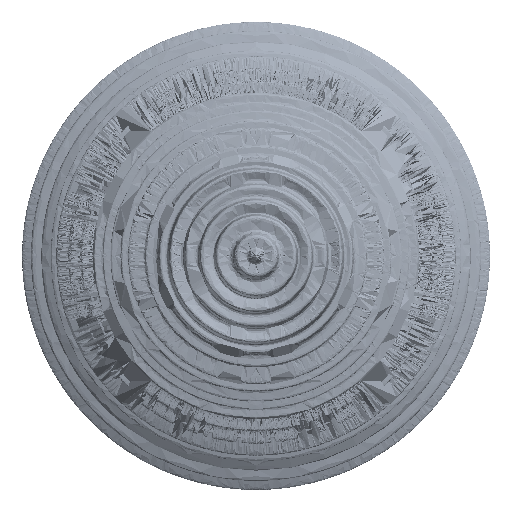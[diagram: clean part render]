
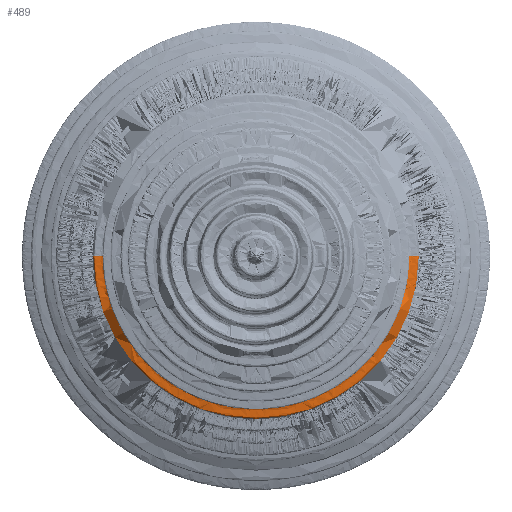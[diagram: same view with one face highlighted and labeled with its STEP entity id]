
A CAD part, front view. The second image highlights one B-rep face of the part: STEP entity #489.
In plain terms, the highlighted free-form (B-spline) face has degree [3, 3] with [8, 4] control points.
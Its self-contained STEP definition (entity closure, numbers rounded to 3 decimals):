
#489 = ADVANCED_FACE ( 'NONE', ( #21960 ), #7741, .F. ) ;
#1442 = CARTESIAN_POINT ( 'NONE',  ( -138.346, -235.173, 0. ) ) ;
#1948 = CARTESIAN_POINT ( 'NONE',  ( 136.688, -230.291, 0. ) ) ;
#2129 = CARTESIAN_POINT ( 'NONE',  ( 138.168, -233.419, 0. ) ) ;
#2303 = CARTESIAN_POINT ( 'NONE',  ( -141.234, -229.502, 0. ) ) ;
#2360 = VERTEX_POINT ( 'NONE', #14166 ) ;
#2468 = CARTESIAN_POINT ( 'NONE',  ( -136.601, -230.291, 0. ) ) ;
#2653 = CARTESIAN_POINT ( 'NONE',  ( 146.82, -228.363, -293.554 ) ) ;
#3432 = EDGE_CURVE ( 'NONE', #6575, #17214, #16341, .T. ) ;
#3960 = CARTESIAN_POINT ( 'NONE',  ( 136.688, -230.291, 0. ) ) ;
#4473 = EDGE_CURVE ( 'NONE', #2360, #30627, #20377, .T. ) ;
#4699 = CARTESIAN_POINT ( 'NONE',  ( -136.601, -230.291, 0. ) ) ;
#5205 = CARTESIAN_POINT ( 'NONE',  ( -136.601, -230.291, -273.29 ) ) ;
#5367 = CARTESIAN_POINT ( 'NONE',  ( -145.478, -229.823, 0. ) ) ;
#5595 = EDGE_LOOP ( 'NONE', ( #30101, #30723, #27416, #13498 ) ) ;
#5689 = CARTESIAN_POINT ( 'NONE',  ( -146.733, -228.363, 0. ) ) ;
#6421 = CARTESIAN_POINT ( 'NONE',  ( 0.044, -228.363, 0. ) ) ;
#6575 = VERTEX_POINT ( 'NONE', #20536 ) ;
#6862 = CARTESIAN_POINT ( 'NONE',  ( 138.434, -235.173, 0. ) ) ;
#7261 = CARTESIAN_POINT ( 'NONE',  ( -146.563, -228.616, -293.214 ) ) ;
#7612 = CARTESIAN_POINT ( 'NONE',  ( -145.478, -229.823, -291.044 ) ) ;
#7741 =( BOUNDED_SURFACE ( )  B_SPLINE_SURFACE ( 3, 3, ( 
 ( #32577, #14434, #24859, #1442 ),
 ( #32752, #10350, #25891, #18047 ),
 ( #2129, #20421, #15300, #31045 ),
 ( #1948, #28131, #5205, #4699 ),
 ( #10507, #22983, #18376, #2303 ),
 ( #9835, #20251, #7612, #30702 ),
 ( #20925, #15131, #7261, #33610 ),
 ( #12737, #2653, #23151, #28475 ) ),
 .UNSPECIFIED., .F., .F., .F. ) 
 B_SPLINE_SURFACE_WITH_KNOTS ( ( 4, 1, 1, 1, 1, 4 ),
 ( 4, 4 ),
 ( 0.588, 0.589, 0.591, 0.595, 0.598, 0.599 ),
 ( 0., 1. ),
 .UNSPECIFIED. ) 
 GEOMETRIC_REPRESENTATION_ITEM ( )  RATIONAL_B_SPLINE_SURFACE ( (
 ( 1., 0.333, 0.333, 1.),
 ( 1., 0.333, 0.333, 1.),
 ( 1., 0.333, 0.333, 1.),
 ( 1., 0.333, 0.333, 1.),
 ( 1., 0.333, 0.333, 1.),
 ( 1., 0.333, 0.333, 1.),
 ( 1., 0.333, 0.333, 1.),
 ( 1., 0.333, 0.333, 1.) ) ) 
 REPRESENTATION_ITEM ( '' )  SURFACE ( )  );
#8353 = DIRECTION ( 'NONE',  ( 0., 1., 0. ) ) ;
#9835 = CARTESIAN_POINT ( 'NONE',  ( 145.565, -229.823, 0. ) ) ;
#10350 = CARTESIAN_POINT ( 'NONE',  ( 138.405, -234.826, -276.722 ) ) ;
#10507 = CARTESIAN_POINT ( 'NONE',  ( 141.321, -229.502, 0. ) ) ;
#12737 = CARTESIAN_POINT ( 'NONE',  ( 146.82, -228.363, 0. ) ) ;
#12810 = CARTESIAN_POINT ( 'NONE',  ( 146.82, -228.363, 0. ) ) ;
#13498 = ORIENTED_EDGE ( 'NONE', *, *, #3432, .F. ) ;
#14166 = CARTESIAN_POINT ( 'NONE',  ( -138.346, -235.173, 0. ) ) ;
#14343 = CIRCLE ( 'NONE', #20902, 138.39 ) ;
#14344 = EDGE_CURVE ( 'NONE', #6575, #2360, #14343, .T. ) ;
#14377 = CARTESIAN_POINT ( 'NONE',  ( 146.651, -228.616, 0. ) ) ;
#14434 = CARTESIAN_POINT ( 'NONE',  ( 138.434, -235.173, -276.78 ) ) ;
#15131 = CARTESIAN_POINT ( 'NONE',  ( 146.651, -228.616, -293.214 ) ) ;
#15300 = CARTESIAN_POINT ( 'NONE',  ( -138.081, -233.419, -276.25 ) ) ;
#15804 = CARTESIAN_POINT ( 'NONE',  ( -146.563, -228.616, 0. ) ) ;
#16341 = B_SPLINE_CURVE_WITH_KNOTS ( 'NONE', 3,
 ( #6862, #17115, #27386, #3960, #25966, #22247, #14377, #12810 ),
 .UNSPECIFIED., .F., .F.,
 ( 4, 1, 1, 1, 1, 4 ),
 ( 0.588, 0.589, 0.591, 0.595, 0.598, 0.599 ),
 .UNSPECIFIED. ) ;
#16850 = AXIS2_PLACEMENT_3D ( 'NONE', #6421, #27289, #24025 ) ;
#16884 = CARTESIAN_POINT ( 'NONE',  ( 0.044, -235.173, 0. ) ) ;
#17115 = CARTESIAN_POINT ( 'NONE',  ( 138.405, -234.826, 0. ) ) ;
#17214 = VERTEX_POINT ( 'NONE', #27033 ) ;
#18047 = CARTESIAN_POINT ( 'NONE',  ( -138.318, -234.826, 0. ) ) ;
#18376 = CARTESIAN_POINT ( 'NONE',  ( -141.234, -229.502, -282.556 ) ) ;
#19085 = CARTESIAN_POINT ( 'NONE',  ( -146.733, -228.363, 0. ) ) ;
#20251 = CARTESIAN_POINT ( 'NONE',  ( 145.565, -229.823, -291.044 ) ) ;
#20377 = B_SPLINE_CURVE_WITH_KNOTS ( 'NONE', 3,
 ( #25885, #28809, #29125, #2468, #31522, #5367, #15804, #5689 ),
 .UNSPECIFIED., .F., .F.,
 ( 4, 1, 1, 1, 1, 4 ),
 ( 0.588, 0.589, 0.591, 0.595, 0.598, 0.599 ),
 .UNSPECIFIED. ) ;
#20421 = CARTESIAN_POINT ( 'NONE',  ( 138.168, -233.419, -276.25 ) ) ;
#20536 = CARTESIAN_POINT ( 'NONE',  ( 138.434, -235.173, 0. ) ) ;
#20902 = AXIS2_PLACEMENT_3D ( 'NONE', #16884, #8353, #21332 ) ;
#20925 = CARTESIAN_POINT ( 'NONE',  ( 146.651, -228.616, 0. ) ) ;
#21332 = DIRECTION ( 'NONE',  ( -1., 0., 0. ) ) ;
#21572 = EDGE_CURVE ( 'NONE', #17214, #30627, #28903, .T. ) ;
#21960 = FACE_OUTER_BOUND ( 'NONE', #5595, .T. ) ;
#22247 = CARTESIAN_POINT ( 'NONE',  ( 145.565, -229.823, 0. ) ) ;
#22983 = CARTESIAN_POINT ( 'NONE',  ( 141.321, -229.502, -282.556 ) ) ;
#23151 = CARTESIAN_POINT ( 'NONE',  ( -146.733, -228.363, -293.554 ) ) ;
#24025 = DIRECTION ( 'NONE',  ( -1., 0., 0. ) ) ;
#24859 = CARTESIAN_POINT ( 'NONE',  ( -138.346, -235.173, -276.78 ) ) ;
#25885 = CARTESIAN_POINT ( 'NONE',  ( -138.346, -235.173, 0. ) ) ;
#25891 = CARTESIAN_POINT ( 'NONE',  ( -138.318, -234.826, -276.722 ) ) ;
#25966 = CARTESIAN_POINT ( 'NONE',  ( 141.321, -229.502, 0. ) ) ;
#27033 = CARTESIAN_POINT ( 'NONE',  ( 146.82, -228.363, 0. ) ) ;
#27289 = DIRECTION ( 'NONE',  ( 0., 1., 0. ) ) ;
#27386 = CARTESIAN_POINT ( 'NONE',  ( 138.168, -233.419, 0. ) ) ;
#27416 = ORIENTED_EDGE ( 'NONE', *, *, #21572, .F. ) ;
#28131 = CARTESIAN_POINT ( 'NONE',  ( 136.688, -230.291, -273.29 ) ) ;
#28475 = CARTESIAN_POINT ( 'NONE',  ( -146.733, -228.363, 0. ) ) ;
#28809 = CARTESIAN_POINT ( 'NONE',  ( -138.318, -234.826, 0. ) ) ;
#28903 = CIRCLE ( 'NONE', #16850, 146.777 ) ;
#29125 = CARTESIAN_POINT ( 'NONE',  ( -138.081, -233.419, 0. ) ) ;
#30101 = ORIENTED_EDGE ( 'NONE', *, *, #14344, .T. ) ;
#30627 = VERTEX_POINT ( 'NONE', #19085 ) ;
#30702 = CARTESIAN_POINT ( 'NONE',  ( -145.478, -229.823, 0. ) ) ;
#30723 = ORIENTED_EDGE ( 'NONE', *, *, #4473, .T. ) ;
#31045 = CARTESIAN_POINT ( 'NONE',  ( -138.081, -233.419, 0. ) ) ;
#31522 = CARTESIAN_POINT ( 'NONE',  ( -141.234, -229.502, 0. ) ) ;
#32577 = CARTESIAN_POINT ( 'NONE',  ( 138.434, -235.173, 0. ) ) ;
#32752 = CARTESIAN_POINT ( 'NONE',  ( 138.405, -234.826, 0. ) ) ;
#33610 = CARTESIAN_POINT ( 'NONE',  ( -146.563, -228.616, 0. ) ) ;
